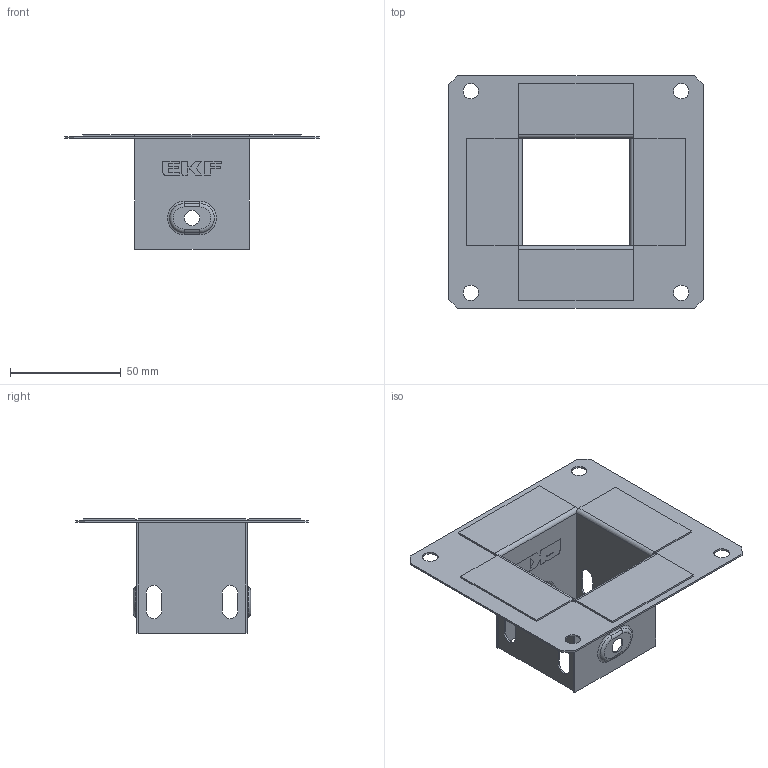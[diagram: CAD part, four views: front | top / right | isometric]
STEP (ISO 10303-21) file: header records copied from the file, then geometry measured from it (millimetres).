
FILE_DESCRIPTION (( 'STEP AP203' ), '1' );
FILE_NAME ('f5050_捘.STEP', '2020-01-23T12:25:59', ( '' ), ( '' ), 'SwSTEP 2.0', 'SolidWorks 2016', '' );
FILE_SCHEMA (( 'CONFIG_CONTROL_DESIGN' ));
Length unit declared in the file: millimetre
Products named in the file (9): f5050_3; f5050_1; f3550_2; f5050_捘
Assembly tree (5 placements, depth 2):
  f5050_3
  f5050_3
  f5050_捘
    f5050_1
    f3550_2  x2
    f5050_3  x2
  f5050_1
  f3550_2
Bounding box: 115 x 105 x 51.5 mm (x, y, z)
Volume: 19057.6 mm3; surface area: 49177.3 mm2
Topology: 5 solids, 5 shells, 306 faces, 792 edges, 512 vertices
Faces by surface type: plane 212, cylinder 60, bspline 18, torus 16
Entity records: 6262 total; most frequent: CARTESIAN_POINT 1358, ORIENTED_EDGE 852, DIRECTION 816, EDGE_CURVE 426, VECTOR 328, LINE 328, VERTEX_POINT 276, AXIS2_PLACEMENT_3D 244
